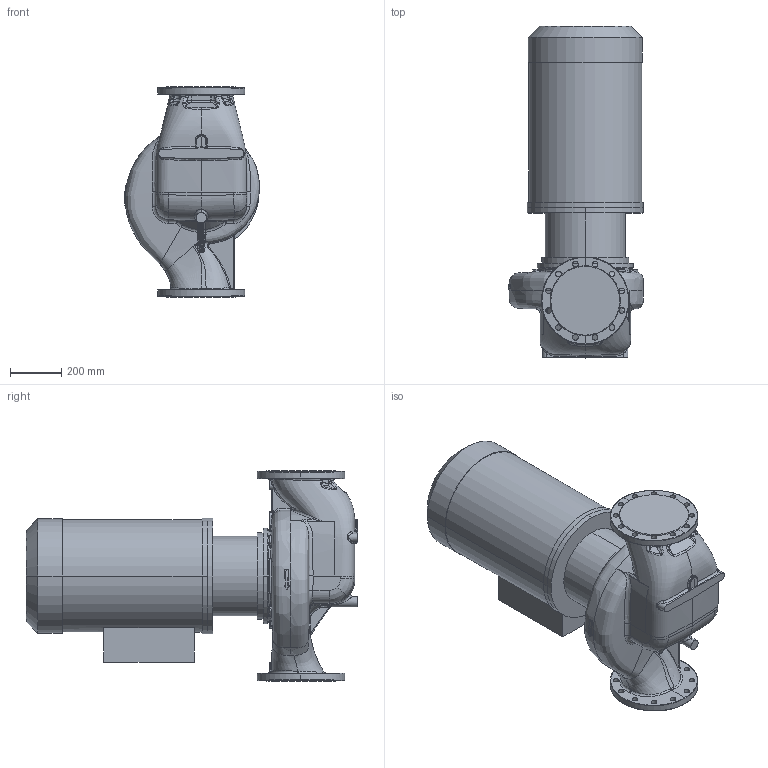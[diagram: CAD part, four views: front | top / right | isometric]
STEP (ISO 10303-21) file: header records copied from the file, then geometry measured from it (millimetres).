
FILE_DESCRIPTION (( 'STEP AP214' ), '1' );
FILE_NAME ('KRL 200-315-4-45.STEP', '2026-04-02T12:52:45', ( '' ), ( '' ), 'SwSTEP 2.0', 'SolidWorks 2016', '' );
FILE_SCHEMA (( 'AUTOMOTIVE_DESIGN' ));
Length unit declared in the file: millimetre
Products named in the file (1): KRL 200-315-4-45
Bounding box: 524.89 x 1290.8 x 820 mm (x, y, z)
Volume: 204858873.1 mm3; surface area: 3671331 mm2
Topology: 4 solids, 4 shells, 860 faces, 2107 edges, 1241 vertices
Faces by surface type: bspline 468, cylinder 203, plane 123, cone 36, torus 22, sphere 8
Entity records: 76670 total; most frequent: CARTESIAN_POINT 51247, ORIENTED_EDGE 4138, DIRECTION 2211, EDGE_CURVE 2069, VERTEX_POINT 1240, AXIS2_PLACEMENT_3D 937, B_SPLINE_CURVE_WITH_KNOTS 933, EDGE_LOOP 931
